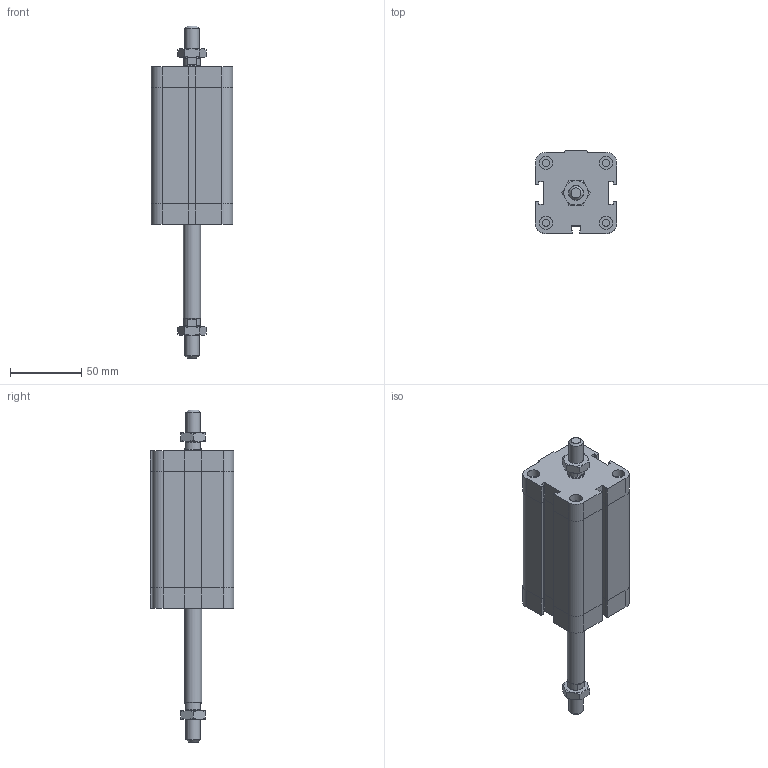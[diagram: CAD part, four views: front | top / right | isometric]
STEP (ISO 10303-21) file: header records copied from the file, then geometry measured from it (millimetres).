
FILE_DESCRIPTION((''),'2;1');
FILE_NAME('I:\Area Tecnica\Disegni\VARIE-3D\Componenti\EUROPE\15##_###_####_04_#\1581_40_0065_04_1.iam.stp','2009-04-20T14:51:47',(''),(''),'Autodesk Inventor 2009','Autodesk Inventor 2009','');
FILE_SCHEMA(('AUTOMOTIVE_DESIGN { 1 0 10303 214 1 1 1 1 }'));
Length unit declared in the file: millimetre
Products named in the file (4): 1581_40_0065_04_1; 1581_40_0065_03_1_C; 1561_40_0065_04_1_S; DBFM10
Assembly tree (4 placements, depth 2):
  1581_40_0065_04_1
    1581_40_0065_03_1_C
    1561_40_0065_04_1_S
    DBFM10  x2
Bounding box: 57 x 58.5 x 232.5 mm (x, y, z)
Volume: 343830.6 mm3; surface area: 53390.1 mm2
Topology: 4 solids, 4 shells, 222 faces, 483 edges, 289 vertices
Faces by surface type: plane 129, cone 35, bspline 33, cylinder 25
Full cylindrical faces by diameter (mm): 4.917 x4, 8.8 x1, 9 x4, 10 x1, 11.7 x2, 12 x1
Entity records: 5450 total; most frequent: CARTESIAN_POINT 1222, DIRECTION 802, ORIENTED_EDGE 772, EDGE_CURVE 386, AXIS2_PLACEMENT_3D 272, EDGE_LOOP 258, VECTOR 258, LINE 258
